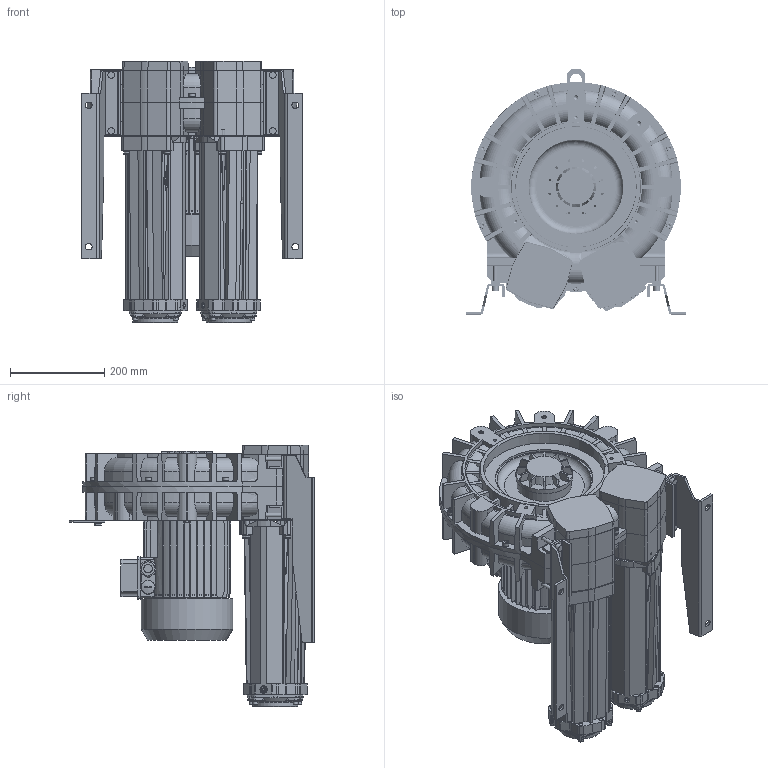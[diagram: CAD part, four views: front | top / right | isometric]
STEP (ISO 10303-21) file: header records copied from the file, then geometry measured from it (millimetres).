
FILE_DESCRIPTION (( 'STEP AP203' ), '1' );
FILE_NAME ('STP-L_e_07_MS_MOR_IE3WR_100_3.0kW-3_24-00.step', '2025-01-08T15:19:45', ( '' ), ( '' ), 'SwSTEP 2.0', 'SolidWorks 2024', '' );
FILE_SCHEMA (( 'CONFIG_CONTROL_DESIGN' ));
Products named in the file (1): STP-L_e_07_MS_MOR_IE3WR_100_3.0kW-3_24-00
Bounding box: 468 x 519 x 553 mm (x, y, z)
Volume: 33970998.2 mm3; surface area: 2376979.7 mm2
Topology: 89 solids, 97 shells, 5578 faces, 14195 edges, 8846 vertices
Faces by surface type: plane 2021, cylinder 1749, bspline 861, torus 463, cone 443, sphere 41
Full cylindrical faces by diameter (mm): 5 x16, 6 x28, 6.4 x12, 6.8 x12, 7 x4, 7.5 x4, 8 x24, 8.4 x20, 8.5 x7, 8.566 x2, 8.8 x4, 9 x8, 9.5 x4, 9.98 x2, 10 x26, 12 x2, 12.02 x2, 13 x27, 14 x14, 16 x5, 16.5 x2, 18 x2, 20 x1, 21.4 x1, 24 x4, 25 x4, 28 x1, 85.3 x2, 108 x2, 115 x2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
Entity records: 239930 total; most frequent: CARTESIAN_POINT 116691, ORIENTED_EDGE 26756, DIRECTION 23726, EDGE_CURVE 13378, AXIS2_PLACEMENT_3D 9126, VERTEX_POINT 8614, EDGE_LOOP 6360, FACE_OUTER_BOUND 5931
